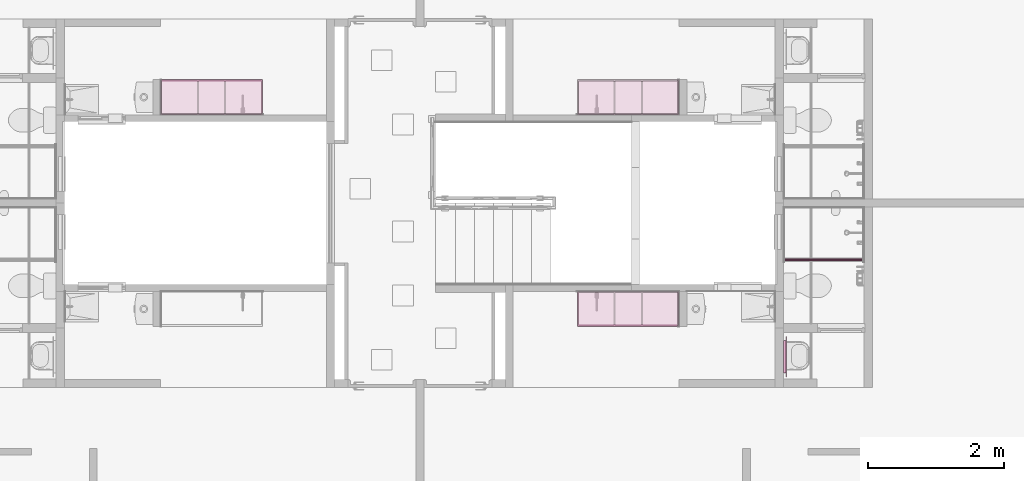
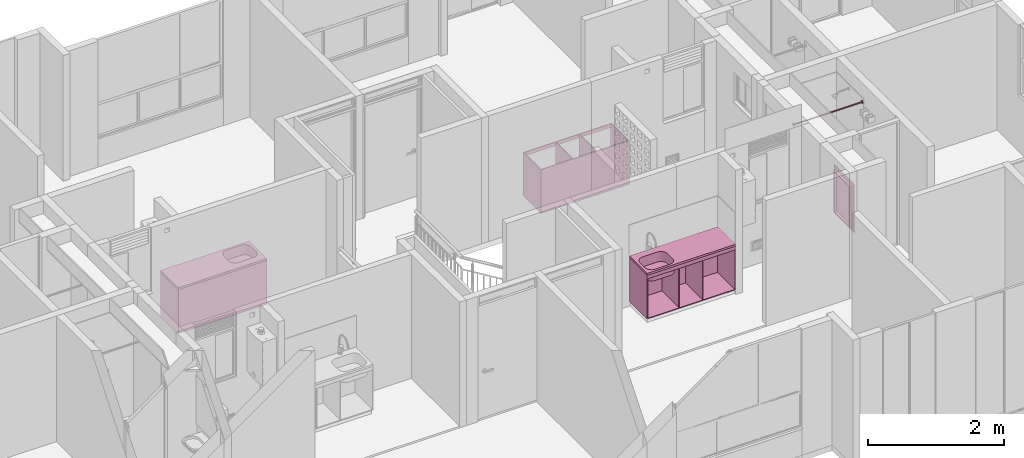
# One storey, part 42 of 47: 7 furniture elements.
"""IFC4 building model written with IfcOpenShell, lengths in metres."""

import ifcopenshell
import ifcopenshell.guid

model = None  # the IFC model being written
_history = None  # IfcOwnerHistory: only IFC2X3 demands one
_inside = {}  # id of a spatial element -> (the spatial element, [elements in it])
_under = {}  # id of a project, library or spatial element -> (it, [spatial elements below it])
_declared = {}  # id of a project -> (the project, [libraries it declares])
_typed = {}  # id of a type object -> (the type object, [elements of that type])
_made_of = {}  # id of a material, layer set ... -> (it, [elements and type objects made of it])


def new_model(schema):
    """Start an empty IFC model of exactly this schema.

    Asked for "IFC4X3", IfcOpenShell would pick the latest addendum, in which some entities
    have other attributes; the version numbers below select the first issue.
    IFC2X3 requires an IfcOwnerHistory on every rooted entity: one is made here for all.
    """
    global model, _history
    if schema == "IFC4X3":
        model = ifcopenshell.file(schema_version=(4, 3, 0, 0))
    else:
        model = ifcopenshell.file(schema=schema)
    _inside.clear()
    _under.clear()
    _declared.clear()
    _typed.clear()
    _made_of.clear()
    _history = None
    if model.schema == "IFC2X3":
        org = make("IfcOrganization", Name="unknown")
        user = make(
            "IfcPersonAndOrganization",
            ThePerson=make("IfcPerson", FamilyName="unknown"),
            TheOrganization=org,
        )
        app = make(
            "IfcApplication",
            ApplicationDeveloper=org,
            Version="unknown",
            ApplicationFullName="unknown",
            ApplicationIdentifier="unknown",
        )
        _history = make(
            "IfcOwnerHistory",
            OwningUser=user,
            OwningApplication=app,
            ChangeAction="ADDED",
            CreationDate=0,
        )
    return model


def make(cls, **values):
    """One entity of the class cls with the attributes given. An attribute that is None is left unset."""
    return model.create_entity(
        cls, **{name: value for name, value in values.items() if value is not None}
    )


def entity(cls, *values):
    """Any entity or typed value of the class cls, its attributes in the order of the schema. None: left unset."""
    e = model.create_entity(cls)
    for i, value in enumerate(values):
        if value is not None:
            e[i] = value
    return e


def rooted(cls, **values):
    """An entity with a GlobalId (a new one), such as an element, a storey or a relation."""
    return make(cls, GlobalId=ifcopenshell.guid.new(), OwnerHistory=_history, **values)


def si_unit(unit_type, name, prefix=None):
    """IfcSIUnit, for example si_unit("LENGTHUNIT", "METRE", prefix="MILLI")."""
    return make("IfcSIUnit", UnitType=unit_type, Prefix=prefix, Name=name)


def converted_unit(unit_type, name, factor, base, dimensions=None, offset=None):
    """IfcConversionBasedUnit, such as the inch: factor (a typed value) times the base unit."""
    return make(
        "IfcConversionBasedUnit"
        if offset is None
        else "IfcConversionBasedUnitWithOffset",
        ConversionOffset=offset,
        Dimensions=None
        if dimensions is None
        else entity("IfcDimensionalExponents", *dimensions),
        UnitType=unit_type,
        Name=name,
        ConversionFactor=make(
            "IfcMeasureWithUnit", ValueComponent=factor, UnitComponent=base
        ),
    )


def derived_unit(unit_type, elements):
    """IfcDerivedUnit: a product of units, each with its exponent."""
    return make(
        "IfcDerivedUnit",
        Elements=[
            make("IfcDerivedUnitElement", Unit=unit, Exponent=power)
            for unit, power in elements
        ],
        UnitType=unit_type,
    )


def assignment(units):
    """IfcUnitAssignment: the units of a project."""
    return None if units is None else make("IfcUnitAssignment", Units=units)


def point(xyz):
    """IfcCartesianPoint."""
    return None if xyz is None else make("IfcCartesianPoint", Coordinates=xyz)


def direction(xyz):
    """IfcDirection."""
    return None if xyz is None else make("IfcDirection", DirectionRatios=xyz)


def frame(location, z_axis=None, x_axis=None):
    """IfcAxis2Placement3D, a coordinate frame: its origin and axes. An axis left out is left unset."""
    return make(
        "IfcAxis2Placement3D",
        Location=point(location),
        Axis=direction(z_axis),
        RefDirection=direction(x_axis),
    )


def origin():
    """The frame at (0, 0, 0) with its axes left unset."""
    return frame((0.0, 0.0, 0.0))


def place(relative_to, where):
    """IfcLocalPlacement: puts the frame where relative to a parent placement (None: the world)."""
    return make(
        "IfcLocalPlacement", PlacementRelTo=relative_to, RelativePlacement=where
    )


def context(
    kind, dimensions, precision=None, world=None, true_north=None, identifier=None
):
    """IfcGeometricRepresentationContext, for example the 3D "Model" context."""
    return make(
        "IfcGeometricRepresentationContext",
        ContextIdentifier=identifier,
        ContextType=kind,
        CoordinateSpaceDimension=dimensions,
        Precision=precision,
        WorldCoordinateSystem=world,
        TrueNorth=true_north,
    )


def subcontext(parent, identifier, kind, view, scale=None):
    """IfcGeometricRepresentationSubContext, for example "Body" below "Model"."""
    return make(
        "IfcGeometricRepresentationSubContext",
        ContextIdentifier=identifier,
        ContextType=kind,
        ParentContext=parent,
        TargetScale=scale,
        TargetView=view,
    )


def project(units=None, contexts=None):
    """IfcProject with its units and contexts."""
    return rooted(
        "IfcProject",
        Name="project",
        RepresentationContexts=contexts,
        UnitsInContext=assignment(units),
    )


def spatial(cls, under=None, at=None, **own):
    """A site, building, storey or space (cls), placed at a placement, below another one or the project."""
    s = rooted(cls, ObjectPlacement=at, **own)
    if under is not None:
        _under.setdefault(under.id(), (under, []))[1].append(s)
    return s


def point_list(points):
    """IfcCartesianPointList2D or 3D."""
    cls = (
        "IfcCartesianPointList2D" if len(points[0]) == 2 else "IfcCartesianPointList3D"
    )
    return make(cls, CoordList=points)


def arc(*indices):
    """IfcArcIndex: an arc through three numbered points of an indexed curve."""
    return model.create_entity("IfcArcIndex", indices)


def indexed_curve(points, segments=None, self_intersect=None):
    """IfcIndexedPolyCurve: lines and arcs through numbered points (the first is 1)."""
    return make(
        "IfcIndexedPolyCurve",
        Points=point_list(points),
        Segments=segments,
        SelfIntersect=self_intersect,
    )


def outline(outer, holes=None, kind="AREA"):
    """IfcArbitraryClosedProfileDef: a profile drawn as a closed curve; with holes, ...WithVoids."""
    if holes is None:
        return make("IfcArbitraryClosedProfileDef", ProfileType=kind, OuterCurve=outer)
    return make(
        "IfcArbitraryProfileDefWithVoids",
        ProfileType=kind,
        OuterCurve=outer,
        InnerCurves=holes,
    )


def extrude(swept, where, along, depth):
    """IfcExtrudedAreaSolid: the profile swept, set in the frame where, extruded along a direction by depth."""
    return make(
        "IfcExtrudedAreaSolid",
        SweptArea=swept,
        Position=where,
        ExtrudedDirection=direction(along),
        Depth=depth,
    )


def polygons(points, faces, closed=None, point_numbers=None):
    """IfcPolygonalFaceSet: a face is its outer loop, then its inner loops; points numbered from 1."""
    made = []
    for loops in faces:
        if len(loops) == 1:
            made.append(make("IfcIndexedPolygonalFace", CoordIndex=loops[0]))
        else:
            made.append(
                make(
                    "IfcIndexedPolygonalFaceWithVoids",
                    CoordIndex=loops[0],
                    InnerCoordIndices=loops[1:],
                )
            )
    return make(
        "IfcPolygonalFaceSet",
        Coordinates=point_list(points),
        Closed=closed,
        Faces=made,
        PnIndex=point_numbers,
    )


def shape(context_of_items, identifier, shape_type, items):
    """IfcShapeRepresentation: the items that make up one representation, for example the "Body"."""
    return make(
        "IfcShapeRepresentation",
        ContextOfItems=context_of_items,
        RepresentationIdentifier=identifier,
        RepresentationType=shape_type,
        Items=items,
    )


def source(mapping_origin, context_of_items, identifier, shape_type, items):
    """IfcRepresentationMap: a shape defined once, which mapped items show again and again."""
    return make(
        "IfcRepresentationMap",
        MappingOrigin=mapping_origin,
        MappedRepresentation=shape(context_of_items, identifier, shape_type, items),
    )


def transform(
    local_origin,
    x_axis=None,
    y_axis=None,
    z_axis=None,
    scale=None,
    scale2=None,
    scale3=None,
    uniform=True,
):
    """IfcCartesianTransformationOperator3D, or its non-uniform kind. x_axis, y_axis, z_axis: its Axis1, 2, 3."""
    if uniform:
        return make(
            "IfcCartesianTransformationOperator3D",
            Axis1=direction(x_axis),
            Axis2=direction(y_axis),
            LocalOrigin=point(local_origin),
            Scale=scale,
            Axis3=direction(z_axis),
        )
    return make(
        "IfcCartesianTransformationOperator3DnonUniform",
        Axis1=direction(x_axis),
        Axis2=direction(y_axis),
        LocalOrigin=point(local_origin),
        Scale=scale,
        Axis3=direction(z_axis),
        Scale2=scale2,
        Scale3=scale3,
    )


def mapped(mapping_source, mapping_target):
    """IfcMappedItem: shows the shape of a source again, moved by a transform."""
    return make(
        "IfcMappedItem", MappingSource=mapping_source, MappingTarget=mapping_target
    )


def material(Name=None, Category=None):
    """IfcMaterial."""
    return make("IfcMaterial", Name=Name, Category=Category)


def constituent(of_material, Name=None, Category=None, fraction=None):
    """IfcMaterialConstituent: one of the materials an element consists of."""
    return make(
        "IfcMaterialConstituent",
        Name=Name,
        Material=of_material,
        Fraction=fraction,
        Category=Category,
    )


def constituent_set(constituents=None, Name=None):
    """IfcMaterialConstituentSet."""
    return make(
        "IfcMaterialConstituentSet", Name=Name, MaterialConstituents=constituents
    )


def made_of(thing, what):
    """Note that an element or type object is made of a material, layer set ...; save() writes the relation."""
    if what is not None:
        _made_of.setdefault(what.id(), (what, []))[1].append(thing)
    return thing


def type_object(cls, material=None, **own):
    """A type object (cls), such as IfcWallType, which elements share."""
    return made_of(rooted(cls, **own), material)


def type_shapes(of_type, sources):
    """Give a type object the sources (RepresentationMaps) that its elements show as mapped items."""
    of_type.RepresentationMaps = sources


def element(
    cls,
    number,
    at=None,
    inside=None,
    cuts=None,
    type_object=None,
    material=None,
    context=None,
    identifier="Body",
    shape_type=None,
    held_by="IfcProductDefinitionShape",
    body=None,
    shapes=None,
    **own,
):
    """One element of the class cls, such as IfcWall. Its Tag is "e" and its number.

    at: its placement. inside: the storey or other place that contains it. cuts: it is an
    opening in that element (IfcRelVoidsElement). A single representation is given by context,
    identifier, shape_type and body (its items); several are given by shapes. held_by: the class
    of the entity that holds the representations. save() writes the other relations.
    """
    e = rooted(cls, Tag="e%d" % number, ObjectPlacement=at, **own)
    if body is not None:
        shapes = [shape(context, identifier, shape_type, body)]
    if shapes is not None:
        e.Representation = make(held_by, Representations=shapes)
    if inside is not None:
        _inside.setdefault(inside.id(), (inside, []))[1].append(e)
    if cuts is not None:
        rooted(
            "IfcRelVoidsElement", RelatingBuildingElement=cuts, RelatedOpeningElement=e
        )
    if type_object is not None:
        _typed.setdefault(type_object.id(), (type_object, []))[1].append(e)
    return made_of(e, material)


def aggregate(whole, parts):
    """IfcRelAggregates: a whole, such as a stair, and the parts it consists of."""
    return rooted("IfcRelAggregates", RelatingObject=whole, RelatedObjects=parts)


def save(model, path):
    """Write the relations noted so far, then the file.

    IfcRelAggregates (storeys below a building ...), IfcRelContainedInSpatialStructure (elements
    in a storey), IfcRelDefinesByType, IfcRelAssociatesMaterial and IfcRelDeclares: one each for
    every whole, place, type object, material and project.
    """
    for whole, parts in _under.values():
        aggregate(whole, parts)
    for where, things in _inside.values():
        rooted(
            "IfcRelContainedInSpatialStructure",
            RelatedElements=things,
            RelatingStructure=where,
        )
    for kind, things in _typed.values():
        rooted("IfcRelDefinesByType", RelatedObjects=things, RelatingType=kind)
    for what, things in _made_of.values():
        rooted("IfcRelAssociatesMaterial", RelatedObjects=things, RelatingMaterial=what)
    for by, libraries in _declared.values():
        rooted("IfcRelDeclares", RelatingContext=by, RelatedDefinitions=libraries)
    model.write(path)


model = new_model("IFC4")

# Units and contexts
model_context = context("Model", 3, precision=1e-05, world=origin(), true_north=direction((6.123031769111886e-17, 1.0)))
body_context = subcontext(model_context, "Body", "Model", "MODEL_VIEW")
ifc_project = project(units=[si_unit("LENGTHUNIT", "METRE"), si_unit("AREAUNIT", "SQUARE_METRE"), si_unit("VOLUMEUNIT", "CUBIC_METRE"), converted_unit("PLANEANGLEUNIT", "DEGREE", entity("IfcRatioMeasure", 0.017453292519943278), si_unit("PLANEANGLEUNIT", "RADIAN"), dimensions=[0, 0, 0, 0, 0, 0, 0]), si_unit("MASSUNIT", "GRAM", prefix="KILO"), derived_unit("MASSDENSITYUNIT", [(si_unit("MASSUNIT", "GRAM", prefix="KILO"), 1), (si_unit("LENGTHUNIT", "METRE"), -3)]), derived_unit("IONCONCENTRATIONUNIT", [(si_unit("MASSUNIT", "GRAM", prefix="KILO"), 1), (si_unit("LENGTHUNIT", "METRE"), -3)]), derived_unit("MOMENTOFINERTIAUNIT", [(si_unit("LENGTHUNIT", "METRE"), 4)]), si_unit("TIMEUNIT", "SECOND"), si_unit("FREQUENCYUNIT", "HERTZ"), si_unit("THERMODYNAMICTEMPERATUREUNIT", "DEGREE_CELSIUS"), derived_unit("THERMALTRANSMITTANCEUNIT", [(si_unit("MASSUNIT", "GRAM", prefix="KILO"), 1), (si_unit("THERMODYNAMICTEMPERATUREUNIT", "KELVIN"), -1), (si_unit("TIMEUNIT", "SECOND"), -3)]), derived_unit("THERMALCONDUCTANCEUNIT", [(si_unit("MASSUNIT", "GRAM", prefix="KILO"), 1), (si_unit("THERMODYNAMICTEMPERATUREUNIT", "KELVIN"), -1), (si_unit("TIMEUNIT", "SECOND"), -3), (si_unit("LENGTHUNIT", "METRE"), 1)]), derived_unit("VOLUMETRICFLOWRATEUNIT", [(si_unit("LENGTHUNIT", "METRE"), 3), (si_unit("TIMEUNIT", "SECOND"), -1)]), derived_unit("MASSFLOWRATEUNIT", [(si_unit("MASSUNIT", "GRAM", prefix="KILO"), 1), (si_unit("TIMEUNIT", "SECOND"), -1)]), derived_unit("ROTATIONALFREQUENCYUNIT", [(si_unit("TIMEUNIT", "SECOND"), -1)]), si_unit("ELECTRICCURRENTUNIT", "AMPERE"), si_unit("ELECTRICVOLTAGEUNIT", "VOLT"), si_unit("POWERUNIT", "WATT"), si_unit("FORCEUNIT", "NEWTON", prefix="KILO"), si_unit("ILLUMINANCEUNIT", "LUX"), si_unit("LUMINOUSFLUXUNIT", "LUMEN"), si_unit("LUMINOUSINTENSITYUNIT", "CANDELA"), derived_unit("USERDEFINED", [(si_unit("MASSUNIT", "GRAM", prefix="KILO"), -1), (si_unit("LENGTHUNIT", "METRE"), -2), (si_unit("TIMEUNIT", "SECOND"), 3), (si_unit("LUMINOUSFLUXUNIT", "LUMEN"), 1)]), derived_unit("USERDEFINED", [(si_unit("MASSUNIT", "GRAM", prefix="KILO"), 1), (si_unit("TIMEUNIT", "SECOND"), -3), (si_unit("LENGTHUNIT", "METRE"), 3), (si_unit("ELECTRICCURRENTUNIT", "AMPERE"), -2)]), derived_unit("SOUNDPOWERUNIT", [(si_unit("MASSUNIT", "GRAM", prefix="KILO"), 1), (si_unit("TIMEUNIT", "SECOND"), -3), (si_unit("LENGTHUNIT", "METRE"), 2)]), derived_unit("SOUNDPRESSUREUNIT", [(si_unit("MASSUNIT", "GRAM", prefix="KILO"), 1), (si_unit("LENGTHUNIT", "METRE"), -1), (si_unit("TIMEUNIT", "SECOND"), -2)]), derived_unit("LINEARVELOCITYUNIT", [(si_unit("LENGTHUNIT", "METRE"), 1), (si_unit("TIMEUNIT", "SECOND"), -1)]), si_unit("PRESSUREUNIT", "PASCAL"), derived_unit("USERDEFINED", [(si_unit("MASSUNIT", "GRAM", prefix="KILO"), 1), (si_unit("LENGTHUNIT", "METRE"), -2), (si_unit("TIMEUNIT", "SECOND"), -2)]), derived_unit("LINEARFORCEUNIT", [(si_unit("MASSUNIT", "GRAM", prefix="KILO"), 1), (si_unit("TIMEUNIT", "SECOND"), -2)]), derived_unit("PLANARFORCEUNIT", [(si_unit("MASSUNIT", "GRAM", prefix="KILO"), 1), (si_unit("LENGTHUNIT", "METRE"), -1), (si_unit("TIMEUNIT", "SECOND"), -2)]), derived_unit("SPECIFICHEATCAPACITYUNIT", [(si_unit("THERMODYNAMICTEMPERATUREUNIT", "KELVIN"), -1), (si_unit("LENGTHUNIT", "METRE"), 2), (si_unit("TIMEUNIT", "SECOND"), -2)]), derived_unit("HEATINGVALUEUNIT", [(si_unit("LENGTHUNIT", "METRE"), 2), (si_unit("TIMEUNIT", "SECOND"), -2)]), derived_unit("VAPORPERMEABILITYUNIT", [(si_unit("LENGTHUNIT", "METRE"), -1), (si_unit("TIMEUNIT", "SECOND"), 1)]), derived_unit("DYNAMICVISCOSITYUNIT", [(si_unit("MASSUNIT", "GRAM", prefix="KILO"), 1), (si_unit("TIMEUNIT", "SECOND"), -1), (si_unit("LENGTHUNIT", "METRE"), -1)]), derived_unit("THERMALEXPANSIONCOEFFICIENTUNIT", [(si_unit("THERMODYNAMICTEMPERATUREUNIT", "KELVIN"), -1)]), derived_unit("MODULUSOFELASTICITYUNIT", [(si_unit("MASSUNIT", "GRAM", prefix="KILO"), 1), (si_unit("LENGTHUNIT", "METRE"), -1), (si_unit("TIMEUNIT", "SECOND"), -2)]), derived_unit("ISOTHERMALMOISTURECAPACITYUNIT", [(si_unit("LENGTHUNIT", "METRE"), 3), (si_unit("MASSUNIT", "GRAM", prefix="KILO"), -1)]), derived_unit("MOISTUREDIFFUSIVITYUNIT", [(si_unit("TIMEUNIT", "SECOND"), -1), (si_unit("LENGTHUNIT", "METRE"), 2)])], contexts=[model_context])

# Site, building, storey
site_placement = place(None, origin())
site = spatial("IfcSite", under=ifc_project, at=site_placement, Name="Default", CompositionType="ELEMENT")
building_placement = place(site_placement, origin())
building = spatial("IfcBuilding", under=site, at=building_placement, CompositionType="ELEMENT")
storey_placement = place(building_placement, frame((0.0, 0.0, 11.750000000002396)))
storey = spatial("IfcBuildingStorey", under=building, at=storey_placement, Name="Nivel 6", CompositionType="ELEMENT", Elevation=11.750000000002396)

# Furniture
ifc_material_1 = material(Name="Aluminio", Category="Materials")
ifc_constituent_1 = constituent(ifc_material_1, Name="Aluminio", Category="Materials")
ifc_material_2 = material(Name="ESPEJO", Category="Materials")
ifc_constituent_2 = constituent(ifc_material_2, Name="ESPEJO", Category="Materials")
ifc_constituent_set_1 = constituent_set(constituents=[ifc_constituent_1, ifc_constituent_2])
ifc_constituent_3 = constituent(ifc_material_1, Name="Aluminio", Category="Materials")
ifc_constituent_4 = constituent(ifc_material_2, Name="ESPEJO", Category="Materials")
ifc_constituent_set_2 = constituent_set(constituents=[ifc_constituent_3, ifc_constituent_4])
furniture_type_1 = type_object("IfcFurnitureType", Name="E2050 - Espejo:E2050 - 0.60m x 0.87m - Espejo", AssemblyPlace="NOTDEFINED", PredefinedType="NOTDEFINED", material=ifc_constituent_set_2)
shared_shape_1 = source(origin(), body_context, "Body", "SweptSolid", [
    extrude(outline(indexed_curve([(-0.3749999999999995, -0.2399999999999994), (0.37499999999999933, -0.23999999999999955), (0.3749999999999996, 0.2399999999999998), (-0.3749999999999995, 0.23999999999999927), (-0.3749999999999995, -0.2399999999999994)], self_intersect=False), holes=[indexed_curve([(-0.34999999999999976, 0.21499999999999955), (0.34999999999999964, 0.21499999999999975), (0.34999999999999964, -0.21499999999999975), (-0.34999999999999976, -0.21499999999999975), (-0.34999999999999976, 0.21499999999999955)], self_intersect=False)]), frame((0.12499999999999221, -0.09999999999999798, 1.485), z_axis=(0.0, 1.0, 0.0), x_axis=(0.0, 0.0, -1.0)), (0.0, 0.0, 1.0), 0.037500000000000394),
    extrude(outline(indexed_curve([(-0.30000000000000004, -0.00350000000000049), (0.30000000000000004, -0.00350000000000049), (0.30000000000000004, 0.00350000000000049), (-0.30000000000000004, 0.00350000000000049), (-0.30000000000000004, -0.00350000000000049)], self_intersect=False)), frame((0.1249999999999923, -0.10350000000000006, 1.05), z_axis=(0.0, 0.0, 1.0), x_axis=(-1.0, 0.0, 0.0)), (0.0, 0.0, 1.0), 0.87),
])
type_shapes(furniture_type_1, [shared_shape_1])
furniture_1_placement = place(storey_placement, frame((14.620000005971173, -8.815000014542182, -0.020000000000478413), z_axis=(0.0, 0.0, 1.0), x_axis=(0.0, 1.0, 0.0)))
element("IfcFurniture", 1, at=furniture_1_placement, inside=storey, type_object=furniture_type_1, material=ifc_constituent_set_1, Name="E2050 - Espejo:E2050 - 0.60m x 0.87m - Espejo", ObjectType="E2050 - Espejo:E2050 - 0.60m x 0.87m - Espejo", PredefinedType="NOTDEFINED", context=body_context, shape_type="MappedRepresentation", body=[
    mapped(shared_shape_1, transform((0.0, 0.0, 0.0), scale=1.0)),
])

# Space
space_1_placement = place(storey_placement, origin())
space_1 = spatial("IfcSpace", under=storey, at=space_1_placement, Name="341", CompositionType="ELEMENT", PredefinedType="SPACE")

# Furniture
ifc_material_3 = material(Name="<Unnamed>")
furniture_type_2 = type_object("IfcFurnitureType", Name="Barra baño:E2050- Barra Baño- Acero inoxidable", AssemblyPlace="NOTDEFINED", PredefinedType="NOTDEFINED", material=ifc_material_3)
shared_shape_2 = source(origin(), body_context, "Body", "SweptSolid", [
    extrude(outline(indexed_curve([(-0.025, 2.707167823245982e-16), (-2.9325041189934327e-16, -0.025), (0.025, 0.0), (7.924642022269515e-17, 0.025)], segments=[arc(1, 2, 3), arc(3, 4, 1)], self_intersect=False)), frame((-1.1599989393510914, 0.0, 1.8000000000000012), z_axis=(1.0, 0.0, 0.0), x_axis=(0.0, -1.0, 0.0)), (0.0, 0.0, 1.0), 0.005000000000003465),
    extrude(outline(indexed_curve([(-0.03, 2.707167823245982e-16), (-3.2525514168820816e-16, -0.029999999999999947), (0.03, 0.0), (9.509570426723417e-17, 0.029999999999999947)], segments=[arc(1, 2, 3), arc(3, 4, 1)], self_intersect=False)), frame((-1.164998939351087, 0.0, 1.8000000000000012), z_axis=(1.0, 0.0, 0.0), x_axis=(0.0, -1.0, 0.0)), (0.0, 0.0, 1.0), 0.0049999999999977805),
    extrude(outline(indexed_curve([(-0.0125, 0.0), (-8.001182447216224e-17, -0.012499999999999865), (0.0125, 0.0), (3.9623210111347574e-17, 0.012499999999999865)], segments=[arc(1, 2, 3), arc(3, 4, 1)], self_intersect=False)), frame((-1.1549989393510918, 0.0, 1.7999999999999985), z_axis=(1.0, 0.0, 0.0), x_axis=(0.0, -1.0, 0.0)), (0.0, 0.0, 1.0), 1.149998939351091),
    extrude(outline(indexed_curve([(-0.025, 0.0), (-1.600236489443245e-16, -0.025000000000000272), (0.025, 0.0), (-5.398034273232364e-17, 0.02499999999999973)], segments=[arc(1, 2, 3), arc(3, 4, 1)], self_intersect=False)), frame((-0.005000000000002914, 0.0, 1.7999999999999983), z_axis=(1.0, 0.0, 0.0), x_axis=(0.0, -1.0, 0.0)), (0.0, 0.0, 1.0), 0.005000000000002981),
    extrude(outline(indexed_curve([(-0.03, 0.0), (-1.9202837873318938e-16, -0.030000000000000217), (0.03, 0.0), (-3.813105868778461e-17, 0.029999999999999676)], segments=[arc(1, 2, 3), arc(3, 4, 1)], self_intersect=False)), frame((0.0, 0.0, 1.7999999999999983), z_axis=(1.0, 0.0, 0.0), x_axis=(0.0, -1.0, 0.0)), (0.0, 0.0, 1.0), 0.00499999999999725),
])
type_shapes(furniture_type_2, [shared_shape_2])
furniture_2_placement = place(space_1_placement, frame((14.692500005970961, -7.260000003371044, 0.12999999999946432), z_axis=(0.0, 0.0, 1.0), x_axis=(-1.0, 0.0, 0.0)))
element("IfcFurniture", 2, at=furniture_2_placement, inside=space_1, type_object=furniture_type_2, material=ifc_material_3, Name="Barra baño:E2050- Barra Baño- Acero inoxidable", ObjectType="Barra baño:E2050- Barra Baño- Acero inoxidable", PredefinedType="NOTDEFINED", context=body_context, shape_type="MappedRepresentation", body=[
    mapped(shared_shape_2, transform((0.0, 0.0, 0.0), scale=1.0)),
])

# Space
space_2_placement = place(storey_placement, origin())
space_2 = spatial("IfcSpace", under=storey, at=space_2_placement, Name="337", CompositionType="ELEMENT", PredefinedType="SPACE")

# Furniture
ifc_material_4 = material(Name="mueble cocina", Category="Materials")
furniture_type_3 = type_object("IfcFurnitureType", Name="E2010 - Mueble bajo de cocina - Madera:E2010 - 1.50 x 0.52 - Mueble bajo de cocina - Madera", AssemblyPlace="NOTDEFINED", PredefinedType="NOTDEFINED", material=ifc_material_4)
shared_shape_3 = source(origin(), body_context, "Body", "SweptSolid", [
    extrude(outline(indexed_curve([(-0.007500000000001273, -0.7349999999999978), (0.007499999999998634, -0.7349999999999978), (0.007500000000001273, 0.7349999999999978), (-0.007499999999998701, 0.7349999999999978), (-0.007500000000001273, -0.7349999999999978)], self_intersect=False)), frame((0.04470032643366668, -0.5125000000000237, 0.8149999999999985), z_axis=(0.0, 0.0, 1.0), x_axis=(0.0, -1.0, 0.0)), (0.0, 0.0, 1.0), 0.06500000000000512),
    extrude(outline(indexed_curve([(-0.2600000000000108, -0.7499999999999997), (0.260000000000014, -0.7499999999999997), (0.2600000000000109, 0.7500000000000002), (-0.2600000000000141, 0.7499999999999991), (-0.2600000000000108, -0.7499999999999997)], self_intersect=False)), frame((0.04470032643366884, -0.2600000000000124, 0.09500000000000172), z_axis=(0.0, 0.0, 1.0), x_axis=(0.0, -1.0, 0.0)), (0.0, 0.0, 1.0), 0.0149999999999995),
    extrude(outline(indexed_curve([(-0.007500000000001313, -0.7500000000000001), (0.007499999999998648, -0.7500000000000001), (0.0075000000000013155, 0.7500000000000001), (-0.007499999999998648, 0.7500000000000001), (-0.007500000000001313, -0.7500000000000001)], self_intersect=False)), frame((0.04470032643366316, -0.00749999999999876, 0.11000000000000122), z_axis=(0.0, 0.0, 1.0), x_axis=(0.0, -1.0, 0.0)), (0.0, 0.0, 1.0), 0.7700000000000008),
    extrude(outline(indexed_curve([(-0.007500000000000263, -0.24500000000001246), (0.007499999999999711, -0.24500000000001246), (0.007500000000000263, 0.24500000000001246), (-0.007499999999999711, 0.24500000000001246), (-0.007500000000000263, -0.24500000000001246)], self_intersect=False)), frame((-0.1552996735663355, -0.2600000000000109, 0.11000000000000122), z_axis=(0.0, 0.0, 1.0), x_axis=(-1.0, 0.0, 0.0)), (0.0, 0.0, 1.0), 0.7700000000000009),
    extrude(outline(indexed_curve([(-0.007499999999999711, -0.24500000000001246), (0.007500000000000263, -0.24500000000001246), (0.007499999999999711, 0.24500000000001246), (-0.007500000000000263, 0.24500000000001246), (-0.007499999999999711, -0.24500000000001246)], self_intersect=False)), frame((0.24470032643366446, -0.26000000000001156, 0.11000000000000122), z_axis=(0.0, 0.0, 1.0), x_axis=(-1.0, 0.0, 0.0)), (0.0, 0.0, 1.0), 0.7700000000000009),
    extrude(outline(indexed_curve([(-0.00750000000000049, -0.2525000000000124), (0.0074999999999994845, -0.25250000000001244), (0.007500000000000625, 0.2525000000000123), (-0.007499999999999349, 0.2525000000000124), (-0.00750000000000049, -0.2525000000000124)], self_intersect=False)), frame((0.7872003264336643, -0.2675000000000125, 0.11000000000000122), z_axis=(0.0, 0.0, 1.0), x_axis=(-1.0, 0.0, 0.0)), (0.0, 0.0, 1.0), 0.7700000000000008),
    extrude(outline(indexed_curve([(-0.007499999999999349, -0.2525000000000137), (0.007500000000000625, -0.2525000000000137), (0.0074999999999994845, 0.25250000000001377), (-0.00750000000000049, 0.2525000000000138), (-0.007499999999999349, -0.2525000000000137)], self_intersect=False)), frame((-0.697799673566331, -0.2675000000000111, 0.11000000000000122), z_axis=(0.0, 0.0, 1.0), x_axis=(-1.0, 0.0, 0.0)), (0.0, 0.0, 1.0), 0.7700000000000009),
])
type_shapes(furniture_type_3, [shared_shape_3])
furniture_3_placement = place(space_2_placement, frame((12.437200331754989, -5.125000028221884, 0.014999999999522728), z_axis=(0.0, 0.0, 1.0), x_axis=(-1.0, 0.0, 0.0)))
element("IfcFurniture", 3, at=furniture_3_placement, inside=space_2, type_object=furniture_type_3, material=ifc_material_4, Name="E2010 - Mueble bajo de cocina - Madera:E2010 - 1.50 x 0.52 - Mueble bajo de cocina - Madera", ObjectType="E2010 - Mueble bajo de cocina - Madera:E2010 - 1.50 x 0.52 - Mueble bajo de cocina - Madera", PredefinedType="NOTDEFINED", context=body_context, shape_type="MappedRepresentation", body=[
    mapped(shared_shape_3, transform((0.0, 0.0, 0.0), scale=1.0)),
])

# Space
space_3_placement = place(storey_placement, origin())
space_3 = spatial("IfcSpace", under=storey, at=space_3_placement, Name="322", CompositionType="ELEMENT", PredefinedType="SPACE")

# Furniture
furniture_type_4 = type_object("IfcFurnitureType", Name="E2010 - Mueble bajo de cocina - Madera:E2010 - 1.50 x 0.52 - Mueble bajo de cocina - Madera", AssemblyPlace="NOTDEFINED", PredefinedType="NOTDEFINED", material=ifc_material_4)
shared_shape_4 = source(origin(), body_context, "Body", "SweptSolid", [
    extrude(outline(indexed_curve([(-0.7349999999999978, -0.007499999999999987), (0.7349999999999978, -0.007499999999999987), (0.7349999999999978, 0.007499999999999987), (-0.7349999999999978, 0.007499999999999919), (-0.7349999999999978, -0.007499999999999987)], self_intersect=False)), frame((0.04470032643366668, 0.5125000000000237, 0.8149999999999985)), (0.0, 0.0, 1.0), 0.06500000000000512),
    extrude(outline(indexed_curve([(-0.7499999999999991, -0.26000000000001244), (0.7499999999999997, -0.26000000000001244), (0.7499999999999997, 0.26000000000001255), (-0.7500000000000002, 0.26000000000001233), (-0.7499999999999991, -0.26000000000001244)], self_intersect=False)), frame((0.04470032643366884, 0.26000000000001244, 0.09500000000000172)), (0.0, 0.0, 1.0), 0.0149999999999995),
    extrude(outline(indexed_curve([(-0.7500000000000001, -0.007499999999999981), (0.7500000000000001, -0.007499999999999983), (0.7500000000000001, 0.007499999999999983), (-0.7500000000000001, 0.007499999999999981), (-0.7500000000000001, -0.007499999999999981)], self_intersect=False)), frame((0.04470032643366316, 0.00749999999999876, 0.11000000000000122)), (0.0, 0.0, 1.0), 0.7700000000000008),
    extrude(outline(indexed_curve([(-0.24500000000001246, -0.007499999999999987), (0.24500000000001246, -0.007499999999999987), (0.24500000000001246, 0.007499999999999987), (-0.24500000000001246, 0.007499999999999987), (-0.24500000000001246, -0.007499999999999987)], self_intersect=False)), frame((-0.1552996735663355, 0.2600000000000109, 0.11000000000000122), z_axis=(0.0, 0.0, 1.0), x_axis=(0.0, 1.0, 0.0)), (0.0, 0.0, 1.0), 0.7700000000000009),
    extrude(outline(indexed_curve([(-0.24500000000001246, -0.007499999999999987), (0.24500000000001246, -0.007499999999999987), (0.24500000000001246, 0.007499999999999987), (-0.24500000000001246, 0.007499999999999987), (-0.24500000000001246, -0.007499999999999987)], self_intersect=False)), frame((0.24470032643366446, 0.26000000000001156, 0.11000000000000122), z_axis=(0.0, 0.0, 1.0), x_axis=(0.0, 1.0, 0.0)), (0.0, 0.0, 1.0), 0.7700000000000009),
    extrude(outline(indexed_curve([(-0.25250000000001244, -0.007500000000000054), (0.2525000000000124, -0.007500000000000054), (0.2525000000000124, 0.007499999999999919), (-0.2525000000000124, 0.007499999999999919), (-0.25250000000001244, -0.007500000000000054)], self_intersect=False)), frame((0.7872003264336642, 0.2675000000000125, 0.11000000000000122), z_axis=(0.0, 0.0, 1.0), x_axis=(0.0, 1.0, 0.0)), (0.0, 0.0, 1.0), 0.7700000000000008),
    extrude(outline(indexed_curve([(-0.2525000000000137, -0.007500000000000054), (0.2525000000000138, -0.007500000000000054), (0.2525000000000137, 0.007499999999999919), (-0.2525000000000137, 0.007499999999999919), (-0.2525000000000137, -0.007500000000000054)], self_intersect=False)), frame((-0.6977996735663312, 0.2675000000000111, 0.11000000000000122), z_axis=(0.0, 0.0, 1.0), x_axis=(0.0, 1.0, 0.0)), (0.0, 0.0, 1.0), 0.7700000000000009),
])
type_shapes(furniture_type_4, [shared_shape_4])
furniture_4_placement = place(space_3_placement, frame((6.207799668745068, -5.1250000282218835, 0.014999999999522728)))
element("IfcFurniture", 4, at=furniture_4_placement, inside=space_3, type_object=furniture_type_4, material=ifc_material_4, Name="E2010 - Mueble bajo de cocina - Madera:E2010 - 1.50 x 0.52 - Mueble bajo de cocina - Madera", ObjectType="E2010 - Mueble bajo de cocina - Madera:E2010 - 1.50 x 0.52 - Mueble bajo de cocina - Madera", PredefinedType="NOTDEFINED", context=body_context, shape_type="MappedRepresentation", body=[
    mapped(shared_shape_4, transform((0.0, 0.0, 0.0), scale=1.0)),
])

# Space
space_4_placement = place(storey_placement, origin())
space_4 = spatial("IfcSpace", under=storey, at=space_4_placement, Name="344", CompositionType="ELEMENT", PredefinedType="SPACE")

# Furniture
furniture_5_placement = place(space_4_placement, frame((12.437200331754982, -7.725000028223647, 0.014999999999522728), z_axis=(0.0, 0.0, 1.0), x_axis=(-1.0, 0.0, 0.0)))
element("IfcFurniture", 5, at=furniture_5_placement, inside=space_4, type_object=furniture_type_4, material=ifc_material_4, Name="E2010 - Mueble bajo de cocina - Madera:E2010 - 1.50 x 0.52 - Mueble bajo de cocina - Madera", ObjectType="E2010 - Mueble bajo de cocina - Madera:E2010 - 1.50 x 0.52 - Mueble bajo de cocina - Madera", PredefinedType="NOTDEFINED", context=body_context, shape_type="MappedRepresentation", body=[
    mapped(shared_shape_4, transform((0.0, 0.0, 0.0), scale=1.0)),
])
ifc_material_5 = material(Name="Mesón cocina", Category="Materials")
furniture_type_5 = type_object("IfcFurnitureType", Name="E1060 - Meson Socoda Radiante - 1.50 X 0.52 - Acero inoxidable:E1060 - 1.50 x 0.52 - Meson de cocina, lavadero y estufa - Acero inoxidable", AssemblyPlace="NOTDEFINED", PredefinedType="NOTDEFINED", material=ifc_material_5)
shared_shape_5 = source(origin(), body_context, "Body", "Tessellation", [
    polygons([(0.7500000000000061, -0.2600000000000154, 0.03499999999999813), (0.7500000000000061, 0.2600000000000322, 0.03499999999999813), (-0.7499999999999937, 0.2600000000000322, 0.03499999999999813), (-0.7499999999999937, -0.2600000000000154, 0.03499999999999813), (0.23610399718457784, -0.03077661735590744, 0.03499999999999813), (0.23610399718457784, 0.11422338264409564, 0.03499999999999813), (0.23985215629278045, 0.14269347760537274, 0.03499999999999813), (0.2508412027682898, 0.1692233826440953, 0.03499999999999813), (0.2683222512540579, 0.1920051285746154, 0.03499999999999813), (0.2911039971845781, 0.20948617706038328, 0.03499999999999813), (0.31763390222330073, 0.22047522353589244, 0.03499999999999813), (0.3461039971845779, 0.22422338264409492, 0.03499999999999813), (0.5934732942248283, 0.2242233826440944, 0.03499999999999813), (0.6219433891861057, 0.22047522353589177, 0.03499999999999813), (0.6484732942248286, 0.20948617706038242, 0.03499999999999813), (0.6712550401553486, 0.1920051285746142, 0.03499999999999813), (0.6887360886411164, 0.1692233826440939, 0.03499999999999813), (0.6997251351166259, 0.14269347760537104, 0.03499999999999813), (0.703473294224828, 0.11422338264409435, 0.03499999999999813), (0.7034732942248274, -0.030776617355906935, 0.03499999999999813), (0.6997251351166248, -0.05924671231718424, 0.03499999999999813), (0.6887360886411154, -0.08577661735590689, 0.03499999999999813), (0.6712550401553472, -0.10855836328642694, 0.03499999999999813), (0.6484732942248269, -0.1260394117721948, 0.03499999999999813), (0.6219433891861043, -0.13702845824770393, 0.03499999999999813), (0.5934732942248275, -0.14077661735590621, 0.03499999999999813), (0.3461039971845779, -0.14077661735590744, 0.03499999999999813), (0.31763390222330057, -0.13702845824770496, 0.03499999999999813), (0.2911039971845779, -0.1260394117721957, 0.03499999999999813), (0.2683222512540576, -0.10855836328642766, 0.03499999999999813), (0.2508412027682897, -0.08577661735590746, 0.03499999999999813), (0.23985215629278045, -0.05924671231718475, 0.03499999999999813), (0.7500000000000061, -0.2600000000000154, -1.8678232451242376e-15), (-0.7499999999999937, -0.2600000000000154, -1.8678232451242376e-15), (-0.7499999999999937, 0.2600000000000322, -1.8678232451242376e-15), (0.7500000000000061, 0.2600000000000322, -1.8678232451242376e-15), (0.5934732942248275, -0.15077661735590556, -1.8678232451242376e-15), (0.62453157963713, -0.1466877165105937, -1.8678232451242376e-15), (0.6534732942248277, -0.13469966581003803, -1.8678232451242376e-15), (0.6783261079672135, -0.11562943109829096, -1.8678232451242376e-15), (0.6973963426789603, -0.09077661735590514, -1.8678232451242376e-15), (0.7093843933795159, -0.061834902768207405, -1.8678232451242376e-15), (0.7134732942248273, -0.030776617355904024, -1.8678232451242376e-15), (0.7134732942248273, 0.11422338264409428, -1.8678232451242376e-15), (0.7093843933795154, 0.14528166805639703, -1.8678232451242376e-15), (0.6973963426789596, 0.17422338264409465, -1.8678232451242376e-15), (0.6783261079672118, 0.19907619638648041, -1.8678232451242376e-15), (0.6534732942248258, 0.21814643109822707, -1.8678232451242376e-15), (0.6245315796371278, 0.2301344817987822, -1.8678232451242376e-15), (0.5934732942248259, 0.23422338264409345, -1.8678232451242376e-15), (0.34610399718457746, 0.23422338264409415, -1.8678232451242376e-15), (0.31504571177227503, 0.2301344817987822, -1.8678232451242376e-15), (0.2861039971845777, 0.2181464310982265, -1.8678232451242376e-15), (0.2612511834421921, 0.19907619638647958, -1.8678232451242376e-15), (0.24218094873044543, 0.17422338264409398, -1.8678232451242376e-15), (0.2301928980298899, 0.14528166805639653, -1.8678232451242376e-15), (0.22610399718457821, 0.11422338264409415, -1.8678232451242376e-15), (0.22610399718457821, -0.030776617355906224, -1.8678232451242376e-15), (0.23019289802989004, -0.06183490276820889, -1.8678232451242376e-15), (0.2421809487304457, -0.09077661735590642, -1.8678232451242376e-15), (0.2612511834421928, -0.11562943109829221, -1.8678232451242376e-15), (0.2861039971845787, -0.13469966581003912, -1.8678232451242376e-15), (0.31504571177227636, -0.1466877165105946, -1.8678232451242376e-15), (0.34610399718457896, -0.1507766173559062, -1.8678232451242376e-15), (0.5934732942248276, -0.1507766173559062, -0.16000000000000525), (0.34610399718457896, -0.1507766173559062, -0.16000000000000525), (0.31504571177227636, -0.1466877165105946, -0.16000000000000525), (0.2861039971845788, -0.13469966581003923, -0.16000000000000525), (0.261251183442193, -0.11562943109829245, -0.16000000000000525), (0.2421809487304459, -0.09077661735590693, -0.16000000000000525), (0.23019289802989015, -0.06183490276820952, -0.16000000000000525), (0.22610399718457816, -0.030776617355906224, -0.16000000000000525), (0.22610399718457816, 0.11422338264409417, -0.16000000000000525), (0.2301928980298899, 0.14528166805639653, -0.16000000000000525), (0.24218094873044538, 0.17422338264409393, -0.16000000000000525), (0.26125118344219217, 0.19907619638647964, -0.16000000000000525), (0.28610399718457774, 0.21814643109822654, -0.16000000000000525), (0.3150457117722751, 0.23013448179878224, -0.16000000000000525), (0.3461039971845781, 0.23422338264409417, -0.16000000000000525), (0.5934732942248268, 0.2342233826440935, -0.16000000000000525), (0.6245315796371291, 0.2301344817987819, -0.16000000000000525), (0.6534732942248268, 0.21814643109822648, -0.16000000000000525), (0.6783261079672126, 0.19907619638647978, -0.16000000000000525), (0.6973963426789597, 0.1742233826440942, -0.16000000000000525), (0.7093843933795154, 0.1452816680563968, -0.16000000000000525), (0.7134732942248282, 0.11422338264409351, -0.16000000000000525), (0.7134732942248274, -0.03077661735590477, -0.16000000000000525), (0.7093843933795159, -0.06183490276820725, -0.16000000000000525), (0.6973963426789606, -0.0907766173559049, -0.16000000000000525), (0.6783261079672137, -0.1156294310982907, -0.16000000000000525), (0.6534732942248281, -0.13469966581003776, -0.16000000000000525), (0.6245315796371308, -0.1466877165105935, -0.16000000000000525), (0.3461039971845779, -0.1407766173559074, -0.14475899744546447), (0.5934732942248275, -0.14077661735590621, -0.14475899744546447), (0.6219433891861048, -0.13702845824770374, -0.14475899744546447), (0.6484732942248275, -0.1260394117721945, -0.14475899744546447), (0.6712550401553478, -0.10855836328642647, -0.14475899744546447), (0.6887360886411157, -0.08577661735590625, -0.14475899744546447), (0.699725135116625, -0.05924671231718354, -0.14475899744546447), (0.7034732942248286, -0.030776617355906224, -0.14475899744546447), (0.7034732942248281, 0.11422338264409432, -0.14475899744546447), (0.6997251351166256, 0.14269347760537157, -0.14475899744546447), (0.6887360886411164, 0.16922338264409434, -0.14475899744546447), (0.6712550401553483, 0.19200512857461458, -0.14475899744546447), (0.6484732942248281, 0.20948617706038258, -0.14475899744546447), (0.6219433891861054, 0.22047522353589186, -0.14475899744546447), (0.5934732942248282, 0.22422338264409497, -0.14475899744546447), (0.3461039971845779, 0.2242233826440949, -0.14475899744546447), (0.31763390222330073, 0.22047522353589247, -0.14475899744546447), (0.2911039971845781, 0.20948617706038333, -0.14475899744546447), (0.2683222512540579, 0.19200512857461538, -0.14475899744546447), (0.25084120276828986, 0.16922338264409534, -0.14475899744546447), (0.23985215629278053, 0.14269347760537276, -0.14475899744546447), (0.23610399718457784, 0.11422338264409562, -0.14475899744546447), (0.23610399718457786, -0.030776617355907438, -0.14475899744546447), (0.2398521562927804, -0.05924671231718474, -0.14475899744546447), (0.25084120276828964, -0.08577661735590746, -0.14475899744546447), (0.2683222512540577, -0.10855836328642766, -0.14475899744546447), (0.2911039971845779, -0.1260394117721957, -0.14475899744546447), (0.31763390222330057, -0.13702845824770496, -0.14475899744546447)], [[[1, 2, 3, 4], [21, 22, 23, 24, 25, 26, 27, 28, 29, 30, 31, 32, 5, 6, 7, 8, 9, 10, 11, 12, 13, 14, 15, 16, 17, 18, 19, 20]], [[94, 95, 96, 97, 98, 99, 100, 101, 102, 103, 104, 105, 106, 107, 108, 109, 110, 111, 112, 113, 114, 115, 116, 117, 118, 119, 120, 93]], [[34, 35, 36, 33], [59, 60, 61, 62, 63, 64, 37, 38, 39, 40, 41, 42, 43, 44, 45, 46, 47, 48, 49, 50, 51, 52, 53, 54, 55, 56, 57, 58]], [[71, 72, 73, 74, 75, 76, 77, 78, 79, 80, 81, 82, 83, 84, 85, 86, 87, 88, 89, 90, 91, 92, 65, 66, 67, 68, 69, 70]], [[34, 33, 1, 4]], [[65, 37, 64, 66]], [[13, 12, 108, 107]], [[34, 4, 3, 35]], [[72, 58, 57, 73]], [[20, 19, 101, 100]], [[36, 35, 3, 2]], [[79, 51, 50, 80]], [[27, 26, 94, 93]], [[36, 2, 1, 33]], [[86, 44, 43, 87]], [[6, 5, 115, 114]], [[68, 67, 63, 62]], [[14, 106, 105, 15]], [[69, 68, 62, 61]], [[15, 105, 104, 16]], [[64, 63, 67, 66]], [[107, 106, 14, 13]], [[71, 70, 60, 59]], [[17, 103, 102, 18]], [[72, 71, 59, 58]], [[18, 102, 101, 19]], [[60, 70, 69, 61]], [[16, 104, 103, 17]], [[75, 74, 56, 55]], [[99, 98, 22, 21]], [[76, 75, 55, 54]], [[98, 97, 23, 22]], [[57, 56, 74, 73]], [[21, 20, 100, 99]], [[78, 77, 53, 52]], [[24, 96, 95, 25]], [[79, 78, 52, 51]], [[25, 95, 94, 26]], [[53, 77, 76, 54]], [[23, 97, 96, 24]], [[82, 81, 49, 48]], [[28, 120, 119, 29]], [[83, 82, 48, 47]], [[29, 119, 118, 30]], [[50, 49, 81, 80]], [[93, 120, 28, 27]], [[85, 84, 46, 45]], [[31, 117, 116, 32]], [[86, 85, 45, 44]], [[32, 116, 115, 5]], [[46, 84, 83, 47]], [[30, 118, 117, 31]], [[89, 88, 42, 41]], [[7, 113, 112, 8]], [[90, 89, 41, 40]], [[8, 112, 111, 9]], [[43, 42, 88, 87]], [[114, 113, 7, 6]], [[92, 91, 39, 38]], [[10, 110, 109, 11]], [[65, 92, 38, 37]], [[11, 109, 108, 12]], [[39, 91, 90, 40]], [[9, 111, 110, 10]]], closed=True),
])
type_shapes(furniture_type_5, [shared_shape_5])
furniture_6_placement = place(space_3_placement, frame((6.252499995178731, -4.865000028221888, 0.8949999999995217)))
element("IfcFurniture", 6, at=furniture_6_placement, inside=space_3, type_object=furniture_type_5, material=ifc_material_5, Name="E1060 - Meson Socoda Radiante - 1.50 X 0.52 - Acero inoxidable:E1060 - 1.50 x 0.52 - Meson de cocina, lavadero y estufa - Acero inoxidable", ObjectType="E1060 - Meson Socoda Radiante - 1.50 X 0.52 - Acero inoxidable:E1060 - 1.50 x 0.52 - Meson de cocina, lavadero y estufa - Acero inoxidable", PredefinedType="NOTDEFINED", context=body_context, shape_type="MappedRepresentation", body=[
    mapped(shared_shape_5, transform((0.0, 0.0, 0.0), scale=1.0)),
])
furniture_7_placement = place(space_4_placement, frame((12.392500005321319, -7.9850000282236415, 0.8949999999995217), z_axis=(0.0, 0.0, 1.0), x_axis=(-1.0, 0.0, 0.0)))
element("IfcFurniture", 7, at=furniture_7_placement, inside=space_4, type_object=furniture_type_5, material=ifc_material_5, Name="E1060 - Meson Socoda Radiante - 1.50 X 0.52 - Acero inoxidable:E1060 - 1.50 x 0.52 - Meson de cocina, lavadero y estufa - Acero inoxidable", ObjectType="E1060 - Meson Socoda Radiante - 1.50 X 0.52 - Acero inoxidable:E1060 - 1.50 x 0.52 - Meson de cocina, lavadero y estufa - Acero inoxidable", PredefinedType="NOTDEFINED", context=body_context, shape_type="MappedRepresentation", body=[
    mapped(shared_shape_5, transform((0.0, 0.0, 0.0), scale=1.0)),
])

save(model, "model.ifc")
